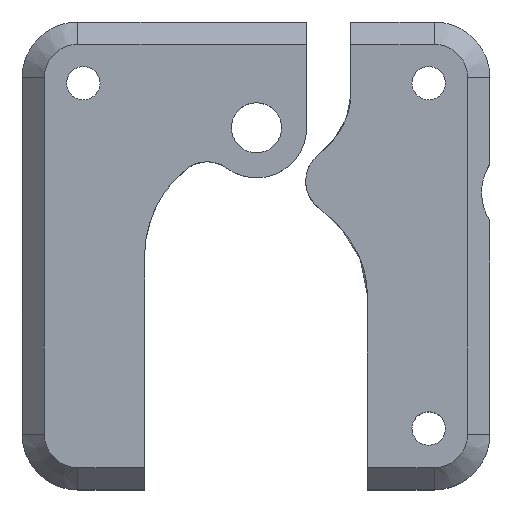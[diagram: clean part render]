
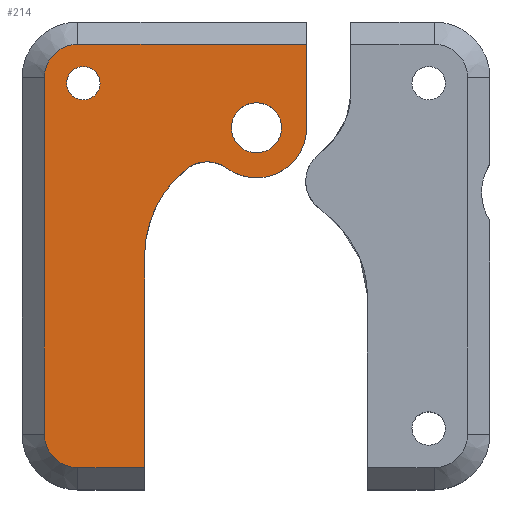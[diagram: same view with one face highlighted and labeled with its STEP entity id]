
A CAD part, top view. The second image highlights one B-rep face of the part: STEP entity #214.
In plain terms, the highlighted planar face has unit normal (0, 0, 1).
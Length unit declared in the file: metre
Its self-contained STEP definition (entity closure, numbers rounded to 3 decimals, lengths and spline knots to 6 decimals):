
#214 = ADVANCED_FACE( '', ( #465, #466, #467 ), #468, .T. );
#465 = FACE_OUTER_BOUND( '', #772, .T. );
#466 = FACE_BOUND( '', #773, .T. );
#467 = FACE_BOUND( '', #774, .T. );
#468 = PLANE( '', #775 );
#772 = EDGE_LOOP( '', ( #1326, #1327, #1328, #1329, #1330, #1331, #1332, #1333, #1334, #1335 ) );
#773 = EDGE_LOOP( '', ( #1336 ) );
#774 = EDGE_LOOP( '', ( #1337 ) );
#775 = AXIS2_PLACEMENT_3D( '', #1338, #1339, #1340 );
#1326 = ORIENTED_EDGE( '', *, *, #1687, .T. );
#1327 = ORIENTED_EDGE( '', *, *, #1701, .T. );
#1328 = ORIENTED_EDGE( '', *, *, #1637, .F. );
#1329 = ORIENTED_EDGE( '', *, *, #1746, .F. );
#1330 = ORIENTED_EDGE( '', *, *, #1706, .T. );
#1331 = ORIENTED_EDGE( '', *, *, #1627, .F. );
#1332 = ORIENTED_EDGE( '', *, *, #1645, .F. );
#1333 = ORIENTED_EDGE( '', *, *, #1679, .T. );
#1334 = ORIENTED_EDGE( '', *, *, #1560, .T. );
#1335 = ORIENTED_EDGE( '', *, *, #1747, .T. );
#1336 = ORIENTED_EDGE( '', *, *, #1668, .F. );
#1337 = ORIENTED_EDGE( '', *, *, #1748, .F. );
#1338 = CARTESIAN_POINT( '', ( 0., 0., 0.012 ) );
#1339 = DIRECTION( '', ( 0., 0., 1. ) );
#1340 = DIRECTION( '', ( 1., 0., 0. ) );
#1560 = EDGE_CURVE( '', #1823, #1828, #1830, .T. );
#1627 = EDGE_CURVE( '', #1937, #1938, #1939, .F. );
#1637 = EDGE_CURVE( '', #1954, #1955, #1956, .T. );
#1645 = EDGE_CURVE( '', #1965, #1937, #1967, .T. );
#1668 = EDGE_CURVE( '', #2000, #2000, #2001, .T. );
#1679 = EDGE_CURVE( '', #1965, #1823, #2017, .T. );
#1687 = EDGE_CURVE( '', #2024, #2026, #2028, .T. );
#1701 = EDGE_CURVE( '', #2026, #1955, #2049, .T. );
#1706 = EDGE_CURVE( '', #2054, #1938, #2055, .F. );
#1746 = EDGE_CURVE( '', #2054, #1954, #2102, .T. );
#1747 = EDGE_CURVE( '', #1828, #2024, #2103, .T. );
#1748 = EDGE_CURVE( '', #2104, #2104, #2105, .T. );
#1823 = VERTEX_POINT( '', #2213 );
#1828 = VERTEX_POINT( '', #2219 );
#1830 = CIRCLE( '', #2222, 0.003 );
#1937 = VERTEX_POINT( '', #2369 );
#1938 = VERTEX_POINT( '', #2370 );
#1939 = CIRCLE( '', #2371, 0.0045 );
#1954 = VERTEX_POINT( '', #2390 );
#1955 = VERTEX_POINT( '', #2391 );
#1956 = LINE( '', #2392, #2393 );
#1965 = VERTEX_POINT( '', #2406 );
#1967 = LINE( '', #2409, #2410 );
#2000 = VERTEX_POINT( '', #2505 );
#2001 = CIRCLE( '', #2506, 0.00225 );
#2017 = LINE( '', #2581, #2582 );
#2024 = VERTEX_POINT( '', #2592 );
#2026 = VERTEX_POINT( '', #2595 );
#2028 = CIRCLE( '', #2598, 0.003 );
#2049 = LINE( '', #2627, #2628 );
#2054 = VERTEX_POINT( '', #2636 );
#2055 = CIRCLE( '', #2637, 0.003 );
#2102 = CIRCLE( '', #2698, 0.01 );
#2103 = LINE( '', #2699, #2700 );
#2104 = VERTEX_POINT( '', #2701 );
#2105 = CIRCLE( '', #2702, 0.0015 );
#2213 = CARTESIAN_POINT( '', ( 0.171796, 0.75982, 0.012 ) );
#2219 = CARTESIAN_POINT( '', ( 0.168796, 0.75682, 0.012 ) );
#2222 = AXIS2_PLACEMENT_3D( '', #2777, #2778, #2779 );
#2369 = CARTESIAN_POINT( '', ( 0.192338, 0.75232, 0.012 ) );
#2370 = CARTESIAN_POINT( '', ( 0.18518, 0.74869, 0.012 ) );
#2371 = AXIS2_PLACEMENT_3D( '', #2865, #2866, #2867 );
#2390 = CARTESIAN_POINT( '', ( 0.177796, 0.740816, 0.012 ) );
#2391 = CARTESIAN_POINT( '', ( 0.177796, 0.72182, 0.012 ) );
#2392 = CARTESIAN_POINT( '', ( 0.177796, 0., 0.012 ) );
#2393 = VECTOR( '', #2881, 1. );
#2406 = CARTESIAN_POINT( '', ( 0.192338, 0.75982, 0.012 ) );
#2409 = CARTESIAN_POINT( '', ( 0.192338, 0., 0.012 ) );
#2410 = VECTOR( '', #2890, 1. );
#2505 = CARTESIAN_POINT( '', ( 0.190088, 0.75232, 0.012 ) );
#2506 = AXIS2_PLACEMENT_3D( '', #2912, #2913, #2914 );
#2581 = CARTESIAN_POINT( '', ( 0., 0.75982, 0.012 ) );
#2582 = VECTOR( '', #2928, 1. );
#2592 = CARTESIAN_POINT( '', ( 0.168796, 0.72482, 0.012 ) );
#2595 = CARTESIAN_POINT( '', ( 0.171796, 0.72182, 0.012 ) );
#2598 = AXIS2_PLACEMENT_3D( '', #2934, #2935, #2936 );
#2627 = CARTESIAN_POINT( '', ( 0., 0.72182, 0.012 ) );
#2628 = VECTOR( '', #2955, 1. );
#2636 = CARTESIAN_POINT( '', ( 0.181527, 0.748606, 0.012 ) );
#2637 = AXIS2_PLACEMENT_3D( '', #2959, #2960, #2961 );
#2698 = AXIS2_PLACEMENT_3D( '', #3000, #3001, #3002 );
#2699 = CARTESIAN_POINT( '', ( 0.168796, 0., 0.012 ) );
#2700 = VECTOR( '', #3003, 1. );
#2701 = CARTESIAN_POINT( '', ( 0.173796, 0.75632, 0.012 ) );
#2702 = AXIS2_PLACEMENT_3D( '', #3004, #3005, #3006 );
#2777 = CARTESIAN_POINT( '', ( 0.171796, 0.75682, 0.012 ) );
#2778 = DIRECTION( '', ( 0., 0., 1. ) );
#2779 = DIRECTION( '', ( 1., 0., 0. ) );
#2865 = CARTESIAN_POINT( '', ( 0.187838, 0.75232, 0.012 ) );
#2866 = DIRECTION( '', ( 0., 0., 1. ) );
#2867 = DIRECTION( '', ( 1., 0., 0. ) );
#2881 = DIRECTION( '', ( 0., -1., 0. ) );
#2890 = DIRECTION( '', ( 0., -1., 0. ) );
#2912 = CARTESIAN_POINT( '', ( 0.187838, 0.75232, 0.012 ) );
#2913 = DIRECTION( '', ( 0., 0., 1. ) );
#2914 = DIRECTION( '', ( 1., 0., 0. ) );
#2928 = DIRECTION( '', ( -1., 0., 0. ) );
#2934 = CARTESIAN_POINT( '', ( 0.171796, 0.72482, 0.012 ) );
#2935 = DIRECTION( '', ( 0., 0., 1. ) );
#2936 = DIRECTION( '', ( 1., 0., 0. ) );
#2955 = DIRECTION( '', ( 1., 0., 0. ) );
#2959 = CARTESIAN_POINT( '', ( 0.183408, 0.746269, 0.012 ) );
#2960 = DIRECTION( '', ( 0., 0., 1. ) );
#2961 = DIRECTION( '', ( 1., 0., 0. ) );
#3000 = CARTESIAN_POINT( '', ( 0.187796, 0.740816, 0.012 ) );
#3001 = DIRECTION( '', ( 0., 0., 1. ) );
#3002 = DIRECTION( '', ( 1., 0., 0. ) );
#3003 = DIRECTION( '', ( 0., -1., 0. ) );
#3004 = CARTESIAN_POINT( '', ( 0.172296, 0.75632, 0.012 ) );
#3005 = DIRECTION( '', ( 0., 0., 1. ) );
#3006 = DIRECTION( '', ( 1., 0., 0. ) );
